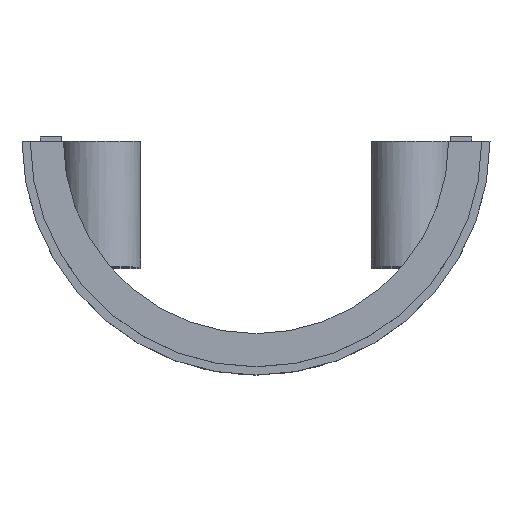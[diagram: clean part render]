
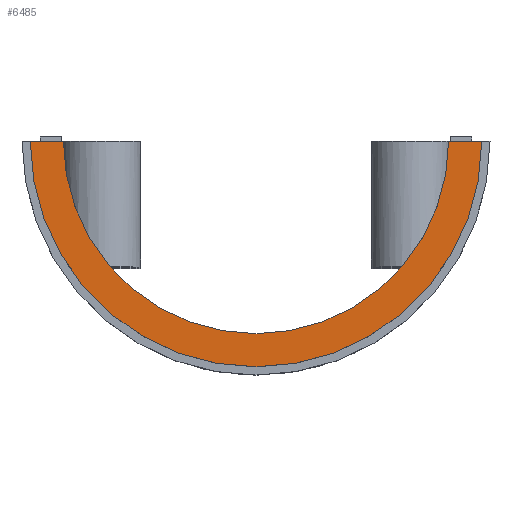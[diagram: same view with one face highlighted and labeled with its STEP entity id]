
A CAD part, top view. The second image highlights one B-rep face of the part: STEP entity #6485.
In plain terms, the highlighted planar face has unit normal (0, 0, 1).
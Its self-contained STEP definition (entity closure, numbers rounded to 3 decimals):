
#43 = PLANE('',#44);
#44 = AXIS2_PLACEMENT_3D('',#45,#46,#47);
#45 = CARTESIAN_POINT('',(-20.,0.,-2.));
#46 = DIRECTION('',(0.,1.,0.));
#47 = DIRECTION('',(0.,0.,1.));
#187 = PLANE('',#188);
#188 = AXIS2_PLACEMENT_3D('',#189,#190,#191);
#189 = CARTESIAN_POINT('',(-20.,0.,-2.));
#190 = DIRECTION('',(0.,1.,0.));
#191 = DIRECTION('',(0.,0.,1.));
#558 = VERTEX_POINT('',#559);
#559 = CARTESIAN_POINT('',(-15.,0.,110.));
#573 = CYLINDRICAL_SURFACE('',#574,15.);
#574 = AXIS2_PLACEMENT_3D('',#575,#576,#577);
#575 = CARTESIAN_POINT('',(0.,0.,0.));
#576 = DIRECTION('',(0.,0.,1.));
#577 = DIRECTION('',(1.,0.,0.));
#584 = EDGE_CURVE('',#585,#558,#587,.T.);
#585 = VERTEX_POINT('',#586);
#586 = CARTESIAN_POINT('',(-12.8,0.,110.));
#587 = SURFACE_CURVE('',#588,(#592,#599),.PCURVE_S1.);
#588 = LINE('',#589,#590);
#589 = CARTESIAN_POINT('',(-10.,0.,110.));
#590 = VECTOR('',#591,1.);
#591 = DIRECTION('',(-1.,0.,0.));
#592 = PCURVE('',#43,#593);
#593 = DEFINITIONAL_REPRESENTATION('',(#594),#598);
#594 = LINE('',#595,#596);
#595 = CARTESIAN_POINT('',(112.,10.));
#596 = VECTOR('',#597,1.);
#597 = DIRECTION('',(0.,-1.));
#598 = ( GEOMETRIC_REPRESENTATION_CONTEXT(2) 
PARAMETRIC_REPRESENTATION_CONTEXT() REPRESENTATION_CONTEXT('2D SPACE',''
  ) );
#599 = PCURVE('',#600,#605);
#600 = PLANE('',#601);
#601 = AXIS2_PLACEMENT_3D('',#602,#603,#604);
#602 = CARTESIAN_POINT('',(0.,0.,110.));
#603 = DIRECTION('',(0.,0.,1.));
#604 = DIRECTION('',(1.,0.,0.));
#605 = DEFINITIONAL_REPRESENTATION('',(#606),#609);
#606 = B_SPLINE_CURVE_WITH_KNOTS('',1,(#607,#608),.UNSPECIFIED.,.F.,.F.,
  (2,2),(-25.,5.),.PIECEWISE_BEZIER_KNOTS.);
#607 = CARTESIAN_POINT('',(15.,0.));
#608 = CARTESIAN_POINT('',(-15.,0.));
#609 = ( GEOMETRIC_REPRESENTATION_CONTEXT(2) 
PARAMETRIC_REPRESENTATION_CONTEXT() REPRESENTATION_CONTEXT('2D SPACE',''
  ) );
#627 = CYLINDRICAL_SURFACE('',#628,12.8);
#628 = AXIS2_PLACEMENT_3D('',#629,#630,#631);
#629 = CARTESIAN_POINT('',(0.,0.,0.));
#630 = DIRECTION('',(0.,0.,1.));
#631 = DIRECTION('',(1.,0.,0.));
#1308 = VERTEX_POINT('',#1309);
#1309 = CARTESIAN_POINT('',(12.8,0.,110.));
#1330 = EDGE_CURVE('',#1331,#1308,#1333,.T.);
#1331 = VERTEX_POINT('',#1332);
#1332 = CARTESIAN_POINT('',(15.,0.,110.));
#1333 = SURFACE_CURVE('',#1334,(#1338,#1345),.PCURVE_S1.);
#1334 = LINE('',#1335,#1336);
#1335 = CARTESIAN_POINT('',(-10.,0.,110.));
#1336 = VECTOR('',#1337,1.);
#1337 = DIRECTION('',(-1.,0.,0.));
#1338 = PCURVE('',#187,#1339);
#1339 = DEFINITIONAL_REPRESENTATION('',(#1340),#1344);
#1340 = LINE('',#1341,#1342);
#1341 = CARTESIAN_POINT('',(112.,10.));
#1342 = VECTOR('',#1343,1.);
#1343 = DIRECTION('',(0.,-1.));
#1344 = ( GEOMETRIC_REPRESENTATION_CONTEXT(2) 
PARAMETRIC_REPRESENTATION_CONTEXT() REPRESENTATION_CONTEXT('2D SPACE',''
  ) );
#1345 = PCURVE('',#600,#1346);
#1346 = DEFINITIONAL_REPRESENTATION('',(#1347),#1350);
#1347 = B_SPLINE_CURVE_WITH_KNOTS('',1,(#1348,#1349),.UNSPECIFIED.,.F.,
  .F.,(2,2),(-25.,5.),.PIECEWISE_BEZIER_KNOTS.);
#1348 = CARTESIAN_POINT('',(15.,0.));
#1349 = CARTESIAN_POINT('',(-15.,0.));
#1350 = ( GEOMETRIC_REPRESENTATION_CONTEXT(2) 
PARAMETRIC_REPRESENTATION_CONTEXT() REPRESENTATION_CONTEXT('2D SPACE',''
  ) );
#4184 = EDGE_CURVE('',#585,#1308,#4185,.T.);
#4185 = SURFACE_CURVE('',#4186,(#4191,#4198),.PCURVE_S1.);
#4186 = CIRCLE('',#4187,12.8);
#4187 = AXIS2_PLACEMENT_3D('',#4188,#4189,#4190);
#4188 = CARTESIAN_POINT('',(0.,0.,110.));
#4189 = DIRECTION('',(0.,0.,1.));
#4190 = DIRECTION('',(1.,0.,0.));
#4191 = PCURVE('',#627,#4192);
#4192 = DEFINITIONAL_REPRESENTATION('',(#4193),#4197);
#4193 = LINE('',#4194,#4195);
#4194 = CARTESIAN_POINT('',(0.,110.));
#4195 = VECTOR('',#4196,1.);
#4196 = DIRECTION('',(1.,0.));
#4197 = ( GEOMETRIC_REPRESENTATION_CONTEXT(2) 
PARAMETRIC_REPRESENTATION_CONTEXT() REPRESENTATION_CONTEXT('2D SPACE',''
  ) );
#4198 = PCURVE('',#600,#4199);
#4199 = DEFINITIONAL_REPRESENTATION('',(#4200),#4204);
#4200 = CIRCLE('',#4201,12.8);
#4201 = AXIS2_PLACEMENT_2D('',#4202,#4203);
#4202 = CARTESIAN_POINT('',(0.,0.));
#4203 = DIRECTION('',(1.,0.));
#4204 = ( GEOMETRIC_REPRESENTATION_CONTEXT(2) 
PARAMETRIC_REPRESENTATION_CONTEXT() REPRESENTATION_CONTEXT('2D SPACE',''
  ) );
#6485 = ADVANCED_FACE('',(#6486),#600,.T.);
#6486 = FACE_BOUND('',#6487,.T.);
#6487 = EDGE_LOOP('',(#6488,#6510,#6511,#6512));
#6488 = ORIENTED_EDGE('',*,*,#6489,.T.);
#6489 = EDGE_CURVE('',#558,#1331,#6490,.T.);
#6490 = SURFACE_CURVE('',#6491,(#6496,#6503),.PCURVE_S1.);
#6491 = CIRCLE('',#6492,15.);
#6492 = AXIS2_PLACEMENT_3D('',#6493,#6494,#6495);
#6493 = CARTESIAN_POINT('',(0.,0.,110.));
#6494 = DIRECTION('',(0.,0.,1.));
#6495 = DIRECTION('',(1.,0.,0.));
#6496 = PCURVE('',#600,#6497);
#6497 = DEFINITIONAL_REPRESENTATION('',(#6498),#6502);
#6498 = CIRCLE('',#6499,15.);
#6499 = AXIS2_PLACEMENT_2D('',#6500,#6501);
#6500 = CARTESIAN_POINT('',(0.,0.));
#6501 = DIRECTION('',(1.,0.));
#6502 = ( GEOMETRIC_REPRESENTATION_CONTEXT(2) 
PARAMETRIC_REPRESENTATION_CONTEXT() REPRESENTATION_CONTEXT('2D SPACE',''
  ) );
#6503 = PCURVE('',#573,#6504);
#6504 = DEFINITIONAL_REPRESENTATION('',(#6505),#6509);
#6505 = LINE('',#6506,#6507);
#6506 = CARTESIAN_POINT('',(0.,110.));
#6507 = VECTOR('',#6508,1.);
#6508 = DIRECTION('',(1.,0.));
#6509 = ( GEOMETRIC_REPRESENTATION_CONTEXT(2) 
PARAMETRIC_REPRESENTATION_CONTEXT() REPRESENTATION_CONTEXT('2D SPACE',''
  ) );
#6510 = ORIENTED_EDGE('',*,*,#1330,.T.);
#6511 = ORIENTED_EDGE('',*,*,#4184,.F.);
#6512 = ORIENTED_EDGE('',*,*,#584,.T.);
